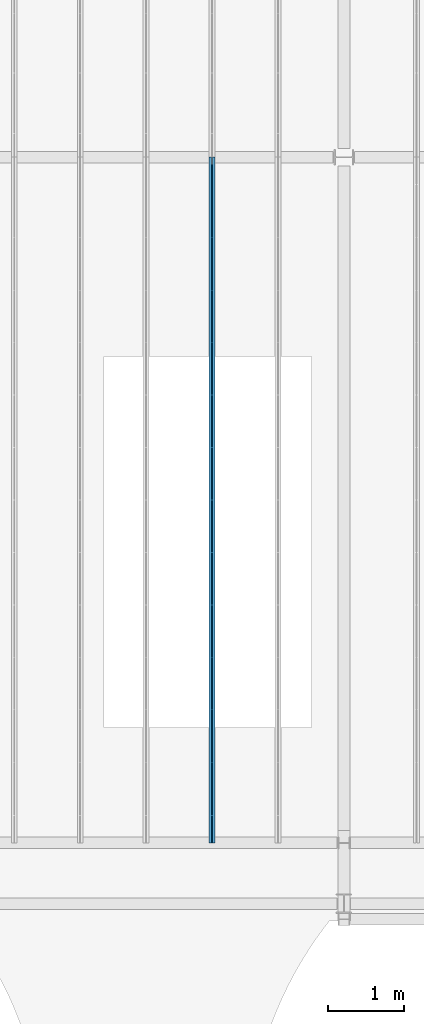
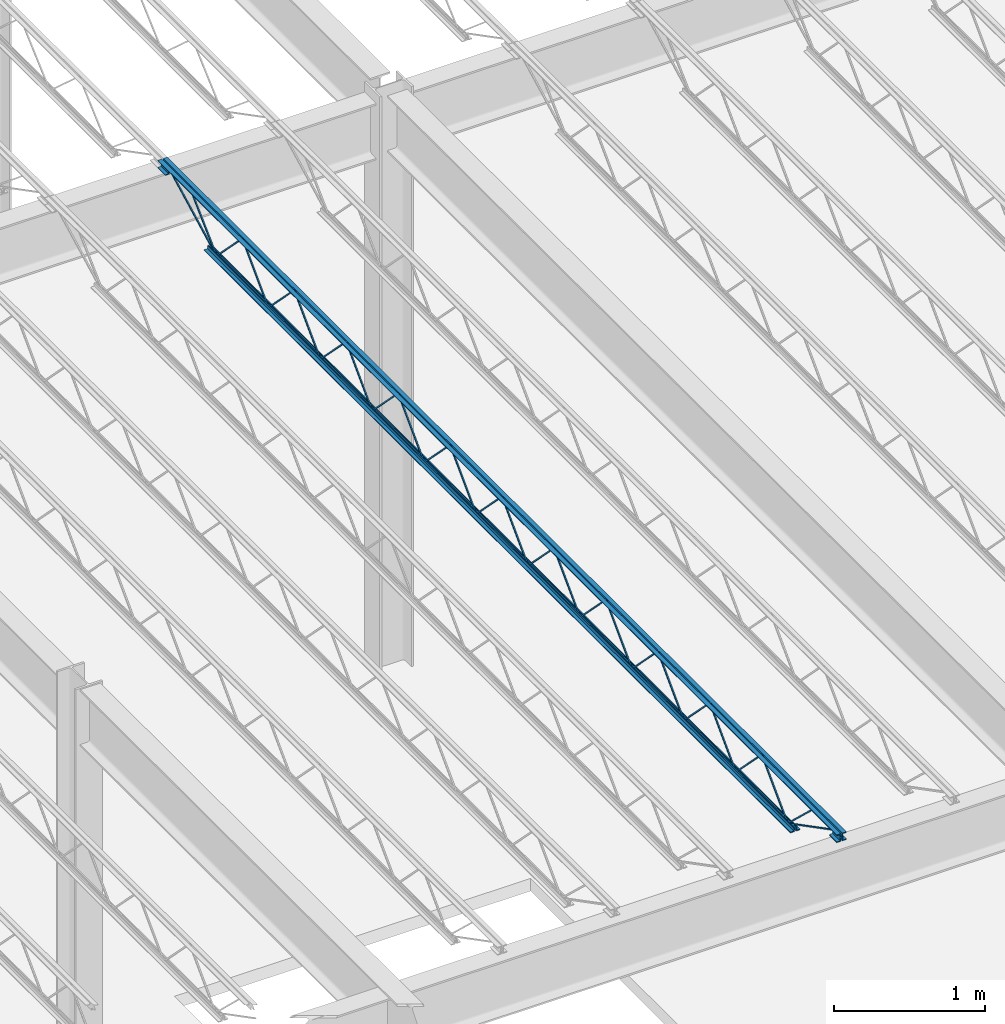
# One storey, part 55 of 119: 1 beam.
"""IFC2X3 building model written with IfcOpenShell, lengths in metres."""

from ifc_helpers import new_model, entity, si_unit, converted_unit, frame, origin, place, context, project, spatial, face_set, surface_model, element, save


model = new_model("IFC2X3")

# Units and contexts
model_context = context("Model", 3, precision=1e-09, world=origin())
plan_context = context("Plan", 3, precision=1e-09, world=origin())
ifc_project = project(units=[si_unit("LENGTHUNIT", "METRE"), si_unit("AREAUNIT", "SQUARE_METRE"), si_unit("VOLUMEUNIT", "CUBIC_METRE"), converted_unit("PLANEANGLEUNIT", "DEGREE", entity("IfcRatioMeasure", 0.01745329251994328), si_unit("PLANEANGLEUNIT", "RADIAN"), dimensions=[0, 0, 0, 0, 0, 0, 0]), si_unit("TIMEUNIT", "SECOND")], contexts=[model_context, plan_context])

# Site, building, storey
site_placement = place(None, origin())
site = spatial("IfcSite", under=ifc_project, at=site_placement, Name="Default", CompositionType="ELEMENT")
building_placement = place(site_placement, origin())
building = spatial("IfcBuilding", under=site, at=building_placement, CompositionType="ELEMENT")
storey_placement = place(building_placement, frame((0.0, 0.0, 4.570000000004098)))
storey = spatial("IfcBuildingStorey", under=building, at=storey_placement, Name="Second Floor", CompositionType="ELEMENT", Elevation=4.570000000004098)

# Beam
beam_placement = place(storey_placement, frame((-16.64339999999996, 35.80499999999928, 4.323999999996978)))
element("IfcBeam", 1, at=beam_placement, inside=storey, Name="M_K-Series Bar Joist-Rod Web:14K1:14K1", ObjectType="M_K-Series Bar Joist-Rod Web:14K1", context=model_context, shape_type="SurfaceModel", body=[
    surface_model("IfcFaceBasedSurfaceModel", [(0.04150000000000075, 6.89009090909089, 0.01110000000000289), (0.03200000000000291, 6.89009090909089, 0.01110000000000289), (0.03200000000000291, 6.89009090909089, 0.001600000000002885), (0.04150000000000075, 6.89009090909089, 0.001600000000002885), (0.03200000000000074, 6.891272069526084, 0.01110000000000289), (0.04150000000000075, 6.891272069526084, 0.01110000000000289), (0.03200000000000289, 6.895259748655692, 0.001600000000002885), (0.03200000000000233, 7.232137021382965, 0.3449000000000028), (0.03200000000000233, 7.23449934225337, 0.3449000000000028), (0.03200000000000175, 7.571376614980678, 0.001600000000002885), (0.03200000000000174, 7.576545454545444, 0.001600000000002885), (0.03200000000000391, 7.576545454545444, 0.01110000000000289), (0.03200000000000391, 7.575364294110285, 0.01110000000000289), (0.03200000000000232, 7.238487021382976, 0.3544000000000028), (0.03200000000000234, 7.228149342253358, 0.3544000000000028), (0.0415000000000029, 6.895259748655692, 0.001600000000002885), (0.04150000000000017, 7.232137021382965, 0.3449000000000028), (0.04150000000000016, 7.23449934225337, 0.3449000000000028), (0.04149999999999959, 7.571376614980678, 0.001600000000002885), (0.04149999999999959, 7.576545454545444, 0.001600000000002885), (0.04149999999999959, 7.576545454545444, 0.01110000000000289), (0.04149999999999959, 7.575364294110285, 0.01110000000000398), (0.04150000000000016, 7.238487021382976, 0.3544000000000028), (0.04150000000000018, 7.228149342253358, 0.3544000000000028), (0.04149999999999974, 6.203636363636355, 0.01110000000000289), (0.0320000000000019, 6.203636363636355, 0.01110000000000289), (0.0320000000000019, 6.203636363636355, 0.001600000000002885), (0.04149999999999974, 6.203636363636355, 0.001600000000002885), (0.03199999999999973, 6.204817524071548, 0.01110000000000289), (0.04149999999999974, 6.204817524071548, 0.01110000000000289), (0.0320000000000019, 6.208805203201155, 0.001600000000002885), (0.03200000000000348, 6.545682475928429, 0.3449000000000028), (0.03200000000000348, 6.548044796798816, 0.3449000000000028), (0.03200000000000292, 6.884922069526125, 0.001600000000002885), (0.03200000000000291, 6.888909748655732, 0.01110000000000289), (0.03200000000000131, 6.552032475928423, 0.3544000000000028), (0.03200000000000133, 6.541694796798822, 0.3544000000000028), (0.0415000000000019, 6.208805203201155, 0.001600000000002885), (0.04149999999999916, 6.545682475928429, 0.3449000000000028), (0.04149999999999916, 6.548044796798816, 0.3449000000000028), (0.04149999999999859, 6.884922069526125, 0.001600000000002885), (0.04149999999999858, 6.89009090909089, 0.001600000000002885), (0.04150000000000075, 6.888909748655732, 0.01110000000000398), (0.04150000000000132, 6.552032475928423, 0.3544000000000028), (0.04150000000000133, 6.541694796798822, 0.3544000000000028), (0.0415000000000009, 5.517181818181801, 0.01110000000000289), (0.03200000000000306, 5.517181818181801, 0.01110000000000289), (0.03200000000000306, 5.517181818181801, 0.001600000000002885), (0.0415000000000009, 5.517181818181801, 0.001600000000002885), (0.03200000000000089, 5.518362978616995, 0.01110000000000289), (0.0415000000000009, 5.518362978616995, 0.01110000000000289), (0.03200000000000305, 5.522350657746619, 0.001600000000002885), (0.03200000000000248, 5.859227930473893, 0.3449000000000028), (0.03200000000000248, 5.861590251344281, 0.3449000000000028), (0.03200000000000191, 6.198467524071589, 0.001600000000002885), (0.03200000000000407, 6.203636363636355, 0.01110000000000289), (0.03200000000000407, 6.202455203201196, 0.01110000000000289), (0.03200000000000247, 5.865577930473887, 0.3544000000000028), (0.03200000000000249, 5.855240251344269, 0.3544000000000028), (0.04150000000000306, 5.522350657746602, 0.001600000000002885), (0.04150000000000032, 5.859227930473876, 0.3449000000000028), (0.04150000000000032, 5.861590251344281, 0.3449000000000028), (0.04149999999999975, 6.198467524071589, 0.001600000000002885), (0.04149999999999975, 6.202455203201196, 0.01110000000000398), (0.04150000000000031, 5.865577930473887, 0.3544000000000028), (0.04150000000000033, 5.855240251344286, 0.3544000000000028), (0.04149999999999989, 4.830727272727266, 0.01110000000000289), (0.03200000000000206, 4.830727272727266, 0.01110000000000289), (0.03200000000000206, 4.830727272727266, 0.001600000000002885), (0.04149999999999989, 4.830727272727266, 0.001600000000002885), (0.03199999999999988, 4.831908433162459, 0.01110000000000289), (0.04149999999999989, 4.831908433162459, 0.01110000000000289), (0.03200000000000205, 4.835896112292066, 0.001600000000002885), (0.03200000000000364, 5.17277338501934, 0.3449000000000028), (0.03200000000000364, 5.175135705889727, 0.3449000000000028), (0.03200000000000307, 5.512012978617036, 0.001600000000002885), (0.03200000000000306, 5.517181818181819, 0.001600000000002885), (0.03200000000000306, 5.517181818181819, 0.01110000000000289), (0.03200000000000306, 5.51600065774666, 0.01110000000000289), (0.03200000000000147, 5.179123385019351, 0.3544000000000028), (0.03200000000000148, 5.168785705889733, 0.3544000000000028), (0.04150000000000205, 4.835896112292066, 0.001600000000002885), (0.04149999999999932, 5.17277338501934, 0.3449000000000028), (0.04149999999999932, 5.175135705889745, 0.3449000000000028), (0.04149999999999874, 5.512012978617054, 0.001600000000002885), (0.04149999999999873, 5.517181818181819, 0.001600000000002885), (0.0415000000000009, 5.517181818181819, 0.01110000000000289), (0.0415000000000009, 5.51600065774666, 0.01110000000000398), (0.04150000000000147, 5.179123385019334, 0.3544000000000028), (0.04150000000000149, 5.168785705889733, 0.3544000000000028), (0.04150000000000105, 4.14427272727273, 0.01110000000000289), (0.03200000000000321, 4.14427272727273, 0.01110000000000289), (0.03200000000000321, 4.14427272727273, 0.001600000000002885), (0.04150000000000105, 4.14427272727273, 0.001600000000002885), (0.03200000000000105, 4.145453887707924, 0.01110000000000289), (0.04150000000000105, 4.145453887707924, 0.01110000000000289), (0.03200000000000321, 4.14944156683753, 0.001600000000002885), (0.03200000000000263, 4.486318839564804, 0.3449000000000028), (0.03200000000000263, 4.488681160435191, 0.3449000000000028), (0.03200000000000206, 4.8255584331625, 0.001600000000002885), (0.03200000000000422, 4.830727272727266, 0.01110000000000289), (0.03200000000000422, 4.829546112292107, 0.01110000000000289), (0.03200000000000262, 4.492668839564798, 0.3544000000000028), (0.03200000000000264, 4.482331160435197, 0.3544000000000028), (0.04150000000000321, 4.14944156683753, 0.001600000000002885), (0.04150000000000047, 4.486318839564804, 0.3449000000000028), (0.04150000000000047, 4.488681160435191, 0.3449000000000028), (0.0414999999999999, 4.8255584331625, 0.001600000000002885), (0.0414999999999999, 4.829546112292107, 0.01110000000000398), (0.04150000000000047, 4.492668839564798, 0.3544000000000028), (0.04150000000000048, 4.482331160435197, 0.3544000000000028), (0.04150000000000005, 3.457818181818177, 0.01110000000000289), (0.03200000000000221, 3.457818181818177, 0.01110000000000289), (0.03200000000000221, 3.457818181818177, 0.001600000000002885), (0.04150000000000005, 3.457818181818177, 0.001600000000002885), (0.03200000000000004, 3.458999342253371, 0.01110000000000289), (0.04150000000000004, 3.458999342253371, 0.01110000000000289), (0.03200000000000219, 3.462987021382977, 0.001600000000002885), (0.03200000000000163, 3.799864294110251, 0.3449000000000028), (0.03200000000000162, 3.802226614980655, 0.3449000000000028), (0.03200000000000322, 4.139103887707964, 0.001600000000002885), (0.03200000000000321, 4.143091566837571, 0.01110000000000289), (0.03200000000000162, 3.806214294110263, 0.3544000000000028), (0.03200000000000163, 3.795876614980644, 0.3544000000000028), (0.04150000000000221, 3.462987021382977, 0.001600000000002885), (0.04149999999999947, 3.799864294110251, 0.3449000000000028), (0.04149999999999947, 3.802226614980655, 0.3449000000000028), (0.0414999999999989, 4.139103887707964, 0.001600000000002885), (0.04149999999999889, 4.14427272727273, 0.001600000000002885), (0.04150000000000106, 4.143091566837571, 0.01110000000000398), (0.04149999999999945, 3.806214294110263, 0.3544000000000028), (0.04149999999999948, 3.795876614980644, 0.3544000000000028), (0.04150000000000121, 2.771363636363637, 0.01110000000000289), (0.03200000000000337, 2.771363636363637, 0.01110000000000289), (0.03200000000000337, 2.771363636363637, 0.001600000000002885), (0.04150000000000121, 2.771363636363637, 0.001600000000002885), (0.0320000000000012, 2.772544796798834, 0.01110000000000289), (0.0415000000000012, 2.772544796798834, 0.01110000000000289), (0.03200000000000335, 2.776532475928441, 0.001600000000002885), (0.03200000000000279, 3.113409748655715, 0.3449000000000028), (0.03200000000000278, 3.115772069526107, 0.3449000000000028), (0.03200000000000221, 3.452649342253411, 0.001600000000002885), (0.03200000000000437, 3.457818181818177, 0.01110000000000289), (0.03200000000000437, 3.456637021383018, 0.01110000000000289), (0.03200000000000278, 3.119759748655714, 0.3544000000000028), (0.03200000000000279, 3.109422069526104, 0.3544000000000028), (0.04150000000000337, 2.776532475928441, 0.001600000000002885), (0.04150000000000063, 3.113409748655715, 0.3449000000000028), (0.04150000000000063, 3.115772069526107, 0.3449000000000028), (0.04150000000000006, 3.452649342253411, 0.001600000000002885), (0.04150000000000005, 3.456637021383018, 0.01110000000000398), (0.04150000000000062, 3.119759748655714, 0.3544000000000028), (0.04150000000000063, 3.109422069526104, 0.3544000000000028), (0.0415000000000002, 2.084909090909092, 0.01110000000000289), (0.03200000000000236, 2.084909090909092, 0.01110000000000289), (0.03200000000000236, 2.084909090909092, 0.001600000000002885), (0.0415000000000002, 2.084909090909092, 0.001600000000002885), (0.0320000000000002, 2.08609025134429, 0.01110000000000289), (0.0415000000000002, 2.08609025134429, 0.01110000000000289), (0.03200000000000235, 2.090077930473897, 0.001600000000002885), (0.03200000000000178, 2.426955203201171, 0.3449000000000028), (0.03200000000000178, 2.429317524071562, 0.3449000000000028), (0.03200000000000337, 2.766194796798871, 0.001600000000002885), (0.03200000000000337, 2.770182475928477, 0.01110000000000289), (0.03200000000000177, 2.433305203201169, 0.3544000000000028), (0.03200000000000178, 2.422967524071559, 0.3544000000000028), (0.04150000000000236, 2.090077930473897, 0.001600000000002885), (0.04149999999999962, 2.426955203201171, 0.3449000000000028), (0.04149999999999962, 2.429317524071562, 0.3449000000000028), (0.04149999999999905, 2.766194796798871, 0.001600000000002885), (0.04149999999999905, 2.771363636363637, 0.001600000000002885), (0.04150000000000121, 2.770182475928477, 0.01110000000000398), (0.04149999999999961, 2.433305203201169, 0.3544000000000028), (0.04149999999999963, 2.422967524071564, 0.3544000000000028), (0.04150000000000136, 1.398454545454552, 0.01110000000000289), (0.03200000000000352, 1.398454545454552, 0.01110000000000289), (0.03200000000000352, 1.398454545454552, 0.001600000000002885), (0.04150000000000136, 1.398454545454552, 0.001600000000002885), (0.03200000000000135, 1.39963570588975, 0.01110000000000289), (0.04150000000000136, 1.39963570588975, 0.01110000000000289), (0.03200000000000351, 1.403623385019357, 0.001600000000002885), (0.03200000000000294, 1.740500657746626, 0.3449000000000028), (0.03200000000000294, 1.742862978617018, 0.3449000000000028), (0.03200000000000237, 2.07974025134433, 0.001600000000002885), (0.03200000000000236, 2.084909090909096, 0.001600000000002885), (0.03200000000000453, 2.084909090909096, 0.01110000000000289), (0.03200000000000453, 2.083727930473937, 0.01110000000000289), (0.03200000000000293, 1.746850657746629, 0.3544000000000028), (0.03200000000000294, 1.736512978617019, 0.3544000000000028), (0.04150000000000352, 1.403623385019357, 0.001600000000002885), (0.04150000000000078, 1.74050065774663, 0.3449000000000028), (0.04150000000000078, 1.742862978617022, 0.3449000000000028), (0.04150000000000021, 2.07974025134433, 0.001600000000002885), (0.0415000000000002, 2.084909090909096, 0.001600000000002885), (0.0415000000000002, 2.084909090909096, 0.01110000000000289), (0.0415000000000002, 2.083727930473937, 0.01110000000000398), (0.04150000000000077, 1.746850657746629, 0.3544000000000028), (0.04150000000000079, 1.736512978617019, 0.3544000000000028), (0.04150000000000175, 7.576545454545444, 0.01109999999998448), (0.03200000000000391, 7.576545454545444, 0.01109999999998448), (0.03200000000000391, 7.576545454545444, 0.001599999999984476), (0.04150000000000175, 7.576545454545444, 0.001599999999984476), (0.03200000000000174, 7.577726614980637, 0.01109999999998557), (0.04150000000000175, 7.577726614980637, 0.01109999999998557), (0.03200000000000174, 7.581714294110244, 0.001599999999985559), (0.03200000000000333, 7.918591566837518, 0.3448999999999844), (0.03200000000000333, 7.920953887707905, 0.3448999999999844), (0.03200000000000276, 8.257831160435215, 0.001599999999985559), (0.03200000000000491, 8.26299999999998, 0.001599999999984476), (0.03200000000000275, 8.26299999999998, 0.01109999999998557), (0.03200000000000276, 8.261818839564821, 0.01109999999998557), (0.03200000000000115, 7.924941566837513, 0.3543999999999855), (0.03200000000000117, 7.914603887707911, 0.3543999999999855), (0.04150000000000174, 7.581714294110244, 0.001599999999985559), (0.04150000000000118, 7.918591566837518, 0.3448999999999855), (0.04150000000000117, 7.920953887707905, 0.3448999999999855), (0.0415000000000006, 8.257831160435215, 0.001599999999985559), (0.04150000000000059, 8.26299999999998, 0.001599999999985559), (0.04150000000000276, 8.26299999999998, 0.01109999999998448), (0.04150000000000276, 8.261818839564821, 0.01109999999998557), (0.04150000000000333, 7.924941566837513, 0.3543999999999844), (0.04150000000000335, 7.914603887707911, 0.3543999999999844), (0.04150000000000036, 0.7120000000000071, 0.01110000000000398), (0.03200000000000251, 0.7120000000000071, 0.01110000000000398), (0.03200000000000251, 0.7120000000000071, 0.001600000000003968), (0.04150000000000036, 0.7120000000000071, 0.001600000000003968), (0.03200000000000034, 0.7131811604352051, 0.01110000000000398), (0.04150000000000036, 0.7131811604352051, 0.01110000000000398), (0.03200000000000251, 0.7171688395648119, 0.001600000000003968), (0.03200000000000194, 1.054046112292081, 0.3449000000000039), (0.03200000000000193, 1.056408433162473, 0.3449000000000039), (0.03200000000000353, 1.393285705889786, 0.001600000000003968), (0.03200000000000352, 1.398454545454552, 0.001600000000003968), (0.03200000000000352, 1.398454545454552, 0.01110000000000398), (0.03200000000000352, 1.397273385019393, 0.01110000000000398), (0.03200000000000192, 1.060396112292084, 0.3544000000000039), (0.03200000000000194, 1.050058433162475, 0.3544000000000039), (0.04150000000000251, 0.7171688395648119, 0.001600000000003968), (0.04149999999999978, 1.054046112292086, 0.3449000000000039), (0.04149999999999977, 1.056408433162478, 0.3449000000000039), (0.0414999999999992, 1.393285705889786, 0.001600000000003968), (0.0414999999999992, 1.398454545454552, 0.001600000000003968), (0.04150000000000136, 1.398454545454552, 0.01110000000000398), (0.04150000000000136, 1.397273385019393, 0.01110000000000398), (0.04149999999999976, 1.060396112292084, 0.3544000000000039), (0.04149999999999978, 1.050058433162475, 0.3544000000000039), (0.03199999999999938, 8.975000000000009, 0.3559999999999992), (0.0, 8.975000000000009, 0.3559999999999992), (0.0, 8.975000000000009, 0.3494999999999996), (0.02549999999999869, 8.975000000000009, 0.3494999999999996), (0.02549999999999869, 8.975000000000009, 0.3239999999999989), (0.03199999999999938, 8.975000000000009, 0.3239999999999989), (0.04149999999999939, 8.975000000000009, 0.3559999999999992), (0.04149999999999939, 8.975000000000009, 0.3239999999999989), (0.04800000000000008, 8.975000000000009, 0.3239999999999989), (0.04800000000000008, 8.975000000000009, 0.3494999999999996), (0.07349999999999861, 8.975000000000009, 0.3494999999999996), (0.07349999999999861, 8.975000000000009, 0.3559999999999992), (0.03200000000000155, 0.0, 0.3559999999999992), (0.0, 0.0, 0.3559999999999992), (0.0, 0.0, 0.3494999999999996), (0.02550000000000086, 0.0, 0.3494999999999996), (0.02550000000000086, 0.0, 0.3239999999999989), (0.03200000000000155, 0.0, 0.3239999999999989), (0.04150000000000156, 0.0, 0.3559999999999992), (0.04150000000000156, 0.0, 0.3239999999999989), (0.04800000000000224, 0.0, 0.3239999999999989), (0.04800000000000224, 0.0, 0.3494999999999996), (0.07350000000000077, 0.0, 0.3494999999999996), (0.07350000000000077, 0.0, 0.3559999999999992), (0.04150000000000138, 0.09999999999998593, 0.2924999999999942), (0.0735000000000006, 0.09999999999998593, 0.2924999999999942), (0.0735000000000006, 0.09999999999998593, 0.2989999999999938), (0.04800000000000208, 0.09999999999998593, 0.2989999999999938), (0.04800000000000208, 0.09999999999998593, 0.3239999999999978), (0.04150000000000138, 0.09999999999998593, 0.3239999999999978), (0.0, 0.09999999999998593, 0.2924999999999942), (0.03200000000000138, 0.09999999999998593, 0.2924999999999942), (0.03200000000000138, 0.09999999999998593, 0.3239999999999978), (0.02550000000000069, 0.09999999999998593, 0.3239999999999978), (0.02550000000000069, 0.09999999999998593, 0.2989999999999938), (0.0, 0.09999999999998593, 0.2989999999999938), (0.04150000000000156, 0.0, 0.2924999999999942), (0.07350000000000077, 0.0, 0.2924999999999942), (0.07350000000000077, 0.0, 0.2989999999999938), (0.04800000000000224, 0.0, 0.2989999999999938), (0.04800000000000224, 0.0, 0.3239999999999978), (0.04150000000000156, 0.0, 0.3239999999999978), (0.0, 0.0, 0.2924999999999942), (0.03200000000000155, 0.0, 0.2924999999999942), (0.03200000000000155, 0.0, 0.3239999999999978), (0.02550000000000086, 0.0, 0.3239999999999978), (0.02550000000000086, 0.0, 0.2989999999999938), (0.0, 0.0, 0.2989999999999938), (0.03199999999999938, 8.975000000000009, 0.2924999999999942), (0.03199999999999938, 8.975000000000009, 0.3239999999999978), (0.02550000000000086, 8.975000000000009, 0.3239999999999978), (0.02550000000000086, 8.975000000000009, 0.2989999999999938), (0.0, 8.975000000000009, 0.2989999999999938), (0.0, 8.975000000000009, 0.2924999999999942), (0.04149999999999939, 8.975000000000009, 0.2924999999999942), (0.07350000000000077, 8.975000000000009, 0.2924999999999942), (0.07350000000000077, 8.975000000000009, 0.2989999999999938), (0.04800000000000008, 8.975000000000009, 0.2989999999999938), (0.04800000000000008, 8.975000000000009, 0.3239999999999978), (0.04149999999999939, 8.975000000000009, 0.3239999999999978), (0.03199999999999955, 8.874999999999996, 0.2924999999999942), (0.03199999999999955, 8.874999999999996, 0.3239999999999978), (0.02550000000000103, 8.874999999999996, 0.3239999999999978), (0.02550000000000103, 8.874999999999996, 0.2989999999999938), (0.0, 8.874999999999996, 0.2989999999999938), (0.0, 8.874999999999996, 0.2924999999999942), (0.04149999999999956, 8.874999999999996, 0.2924999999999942), (0.07350000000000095, 8.874999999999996, 0.2924999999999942), (0.07350000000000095, 8.874999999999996, 0.2989999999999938), (0.04800000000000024, 8.874999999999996, 0.2989999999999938), (0.04800000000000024, 8.874999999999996, 0.3239999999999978), (0.04149999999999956, 8.874999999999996, 0.3239999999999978), (0.03200000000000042, 8.363000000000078, 0.0), (0.03200000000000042, 8.363000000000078, 0.03199999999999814), (0.02549999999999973, 8.363000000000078, 0.03199999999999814), (0.02549999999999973, 8.363000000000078, 0.006499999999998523), (0.0, 8.363000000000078, 0.006499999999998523), (0.0, 8.363000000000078, 0.0), (0.04150000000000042, 8.363000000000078, 0.0), (0.07349999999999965, 8.363000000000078, 0.0), (0.07349999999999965, 8.363000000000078, 0.006499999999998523), (0.04800000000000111, 8.363000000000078, 0.006499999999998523), (0.04800000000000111, 8.363000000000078, 0.03199999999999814), (0.04150000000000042, 8.363000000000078, 0.03199999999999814), (0.03200000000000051, 0.6120000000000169, 0.0), (0.03200000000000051, 0.6120000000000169, 0.03199999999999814), (0.02549999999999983, 0.6120000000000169, 0.03199999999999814), (0.02549999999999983, 0.6120000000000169, 0.006499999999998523), (0.0, 0.6120000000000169, 0.006499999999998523), (0.0, 0.6120000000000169, 0.0), (0.04150000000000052, 0.6120000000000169, 0.0), (0.07349999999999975, 0.6120000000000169, 0.0), (0.07349999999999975, 0.6120000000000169, 0.006499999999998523), (0.04800000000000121, 0.6120000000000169, 0.006499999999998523), (0.04800000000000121, 0.6120000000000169, 0.03199999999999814), (0.04150000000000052, 0.6120000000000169, 0.03199999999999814), (0.04150000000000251, 0.7141882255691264, 0.01056594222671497), (0.03200000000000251, 0.7141882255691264, 0.01056594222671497), (0.03200000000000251, 0.7098117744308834, 0.002134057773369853), (0.04150000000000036, 0.7098117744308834, 0.002134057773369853), (0.04150000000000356, 0.1011592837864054, 0.3287499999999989), (0.04150000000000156, 0.0, 0.3287499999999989), (0.04150000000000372, 0.0, 0.3192499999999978), (0.04150000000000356, 0.09884071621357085, 0.3192499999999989), (0.03200000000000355, 0.09884071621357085, 0.3192499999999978), (0.03200000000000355, 0.1011592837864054, 0.3287499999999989), (0.03200000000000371, 0.0, 0.3287499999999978), (0.03200000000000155, 0.0, 0.3192499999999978), (0.04150000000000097, 0.3488155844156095, 0.3417000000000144), (0.03200000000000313, 0.3488155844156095, 0.3417000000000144), (0.03200000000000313, 0.3488155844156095, 0.3322000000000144), (0.04150000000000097, 0.3488155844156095, 0.3322000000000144), (0.03200000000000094, 0.3634023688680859, 0.3417000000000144), (0.04150000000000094, 0.3634023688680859, 0.3417000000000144), (0.03200000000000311, 0.3596287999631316, 0.3322000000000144), (0.03200000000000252, 0.7087406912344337, 0.002894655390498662), (0.03200000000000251, 0.7152593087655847, 0.009805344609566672), (0.04150000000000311, 0.3596287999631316, 0.3322000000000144), (0.04150000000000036, 0.7087406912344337, 0.002894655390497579), (0.04150000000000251, 0.7152593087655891, 0.009805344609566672), (0.04149999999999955, 8.877188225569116, 0.3197840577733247), (0.04149999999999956, 8.872811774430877, 0.3282159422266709), (0.03200000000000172, 8.872811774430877, 0.3282159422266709), (0.03200000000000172, 8.877188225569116, 0.3197840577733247), (0.04150000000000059, 8.265188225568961, 0.002134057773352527), (0.0415000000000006, 8.260811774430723, 0.01056594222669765), (0.03200000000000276, 8.260811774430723, 0.01056594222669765), (0.03200000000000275, 8.265188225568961, 0.002134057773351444), (0.04150000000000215, 8.624030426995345, 0.346222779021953), (0.04149999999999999, 8.617452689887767, 0.3530772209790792), (0.03199999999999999, 8.617452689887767, 0.3530772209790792), (0.03200000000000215, 8.624030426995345, 0.346222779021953), (0.04150000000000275, 8.266288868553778, 0.002922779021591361), (0.0415000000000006, 8.259711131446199, 0.009777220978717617), (0.03200000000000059, 8.259711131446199, 0.009777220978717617), (0.03200000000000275, 8.266288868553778, 0.002922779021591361)], [face_set([[[0, 1, 2, 3]], [[1, 4, 5, 0]], [[2, 6, 7, 8, 9, 10, 11, 12, 13, 14, 4, 1]], [[3, 2, 6, 15]], [[0, 3, 15, 16, 17, 18, 19, 20, 21, 22, 23, 5]], [[4, 5, 23, 14]], [[15, 16, 7, 6]], [[14, 13, 22, 23]], [[16, 7, 8, 17]], [[13, 12, 21, 22]], [[17, 8, 9, 18]], [[20, 11, 10, 19]], [[12, 11, 20, 21]], [[18, 9, 10, 19]]]), face_set([[[24, 25, 26, 27]], [[25, 28, 29, 24]], [[26, 30, 31, 32, 33, 2, 1, 34, 35, 36, 28, 25]], [[27, 26, 30, 37]], [[24, 27, 37, 38, 39, 40, 41, 0, 42, 43, 44, 29]], [[28, 29, 44, 36]], [[37, 38, 31, 30]], [[36, 35, 43, 44]], [[38, 31, 32, 39]], [[35, 34, 42, 43]], [[39, 32, 33, 40]], [[0, 1, 2, 41]], [[34, 1, 0, 42]], [[40, 33, 2, 41]]]), face_set([[[45, 46, 47, 48]], [[46, 49, 50, 45]], [[47, 51, 52, 53, 54, 26, 55, 56, 57, 58, 49, 46]], [[48, 47, 51, 59]], [[45, 48, 59, 60, 61, 62, 27, 24, 63, 64, 65, 50]], [[49, 50, 65, 58]], [[59, 60, 52, 51]], [[58, 57, 64, 65]], [[60, 52, 53, 61]], [[57, 56, 63, 64]], [[61, 53, 54, 62]], [[24, 55, 26, 27]], [[56, 55, 24, 63]], [[62, 54, 26, 27]]]), face_set([[[66, 67, 68, 69]], [[67, 70, 71, 66]], [[68, 72, 73, 74, 75, 76, 77, 78, 79, 80, 70, 67]], [[69, 68, 72, 81]], [[66, 69, 81, 82, 83, 84, 85, 86, 87, 88, 89, 71]], [[70, 71, 89, 80]], [[81, 82, 73, 72]], [[80, 79, 88, 89]], [[82, 73, 74, 83]], [[79, 78, 87, 88]], [[83, 74, 75, 84]], [[86, 77, 76, 85]], [[78, 77, 86, 87]], [[84, 75, 76, 85]]]), face_set([[[90, 91, 92, 93]], [[91, 94, 95, 90]], [[92, 96, 97, 98, 99, 68, 100, 101, 102, 103, 94, 91]], [[93, 92, 96, 104]], [[90, 93, 104, 105, 106, 107, 69, 66, 108, 109, 110, 95]], [[94, 95, 110, 103]], [[104, 105, 97, 96]], [[103, 102, 109, 110]], [[105, 97, 98, 106]], [[102, 101, 108, 109]], [[106, 98, 99, 107]], [[66, 100, 68, 69]], [[101, 100, 66, 108]], [[107, 99, 68, 69]]]), face_set([[[111, 112, 113, 114]], [[112, 115, 116, 111]], [[113, 117, 118, 119, 120, 92, 91, 121, 122, 123, 115, 112]], [[114, 113, 117, 124]], [[111, 114, 124, 125, 126, 127, 128, 90, 129, 130, 131, 116]], [[115, 116, 131, 123]], [[124, 125, 118, 117]], [[123, 122, 130, 131]], [[125, 118, 119, 126]], [[122, 121, 129, 130]], [[126, 119, 120, 127]], [[90, 91, 92, 128]], [[121, 91, 90, 129]], [[127, 120, 92, 128]]]), face_set([[[132, 133, 134, 135]], [[133, 136, 137, 132]], [[134, 138, 139, 140, 141, 113, 142, 143, 144, 145, 136, 133]], [[135, 134, 138, 146]], [[132, 135, 146, 147, 148, 149, 114, 111, 150, 151, 152, 137]], [[136, 137, 152, 145]], [[146, 147, 139, 138]], [[145, 144, 151, 152]], [[147, 139, 140, 148]], [[144, 143, 150, 151]], [[148, 140, 141, 149]], [[111, 142, 113, 114]], [[143, 142, 111, 150]], [[149, 141, 113, 114]]]), face_set([[[153, 154, 155, 156]], [[154, 157, 158, 153]], [[155, 159, 160, 161, 162, 134, 133, 163, 164, 165, 157, 154]], [[156, 155, 159, 166]], [[153, 156, 166, 167, 168, 169, 170, 132, 171, 172, 173, 158]], [[157, 158, 173, 165]], [[166, 167, 160, 159]], [[165, 164, 172, 173]], [[167, 160, 161, 168]], [[164, 163, 171, 172]], [[168, 161, 162, 169]], [[132, 133, 134, 170]], [[163, 133, 132, 171]], [[169, 162, 134, 170]]]), face_set([[[174, 175, 176, 177]], [[175, 178, 179, 174]], [[176, 180, 181, 182, 183, 184, 185, 186, 187, 188, 178, 175]], [[177, 176, 180, 189]], [[174, 177, 189, 190, 191, 192, 193, 194, 195, 196, 197, 179]], [[178, 179, 197, 188]], [[189, 190, 181, 180]], [[188, 187, 196, 197]], [[190, 181, 182, 191]], [[187, 186, 195, 196]], [[191, 182, 183, 192]], [[194, 185, 184, 193]], [[186, 185, 194, 195]], [[192, 183, 184, 193]]]), face_set([[[198, 199, 200, 201]], [[199, 202, 203, 198]], [[200, 204, 205, 206, 207, 208, 209, 210, 211, 212, 202, 199]], [[201, 200, 204, 213]], [[198, 201, 213, 214, 215, 216, 217, 218, 219, 220, 221, 203]], [[202, 203, 221, 212]], [[213, 214, 205, 204]], [[212, 211, 220, 221]], [[214, 205, 206, 215]], [[211, 210, 219, 220]], [[215, 206, 207, 216]], [[218, 209, 208, 217]], [[210, 209, 218, 219]], [[216, 207, 208, 217]]]), face_set([[[222, 223, 224, 225]], [[223, 226, 227, 222]], [[224, 228, 229, 230, 231, 232, 233, 234, 235, 236, 226, 223]], [[225, 224, 228, 237]], [[222, 225, 237, 238, 239, 240, 241, 242, 243, 244, 245, 227]], [[226, 227, 245, 236]], [[237, 238, 229, 228]], [[236, 235, 244, 245]], [[238, 229, 230, 239]], [[235, 234, 243, 244]], [[239, 230, 231, 240]], [[242, 233, 232, 241]], [[234, 233, 242, 243]], [[240, 231, 232, 241]]]), face_set([[[246, 247, 248, 249, 250, 251]], [[252, 253, 254, 255, 256, 257]], [[258, 259, 260, 261, 262, 263]], [[264, 265, 266, 267, 268, 269]], [[251, 246, 258, 263]], [[250, 251, 263, 262]], [[249, 261, 262, 250]], [[248, 249, 261, 260]], [[247, 259, 260, 248]], [[246, 258, 259, 247]], [[257, 269, 264, 252]], [[256, 257, 269, 268]], [[255, 256, 268, 267]], [[254, 255, 267, 266]], [[253, 254, 266, 265]], [[252, 264, 265, 253]]]), face_set([[[270, 271, 272, 273, 274, 275]], [[276, 277, 278, 279, 280, 281]], [[282, 283, 284, 285, 286, 287]], [[288, 289, 290, 291, 292, 293]], [[275, 287, 282, 270]], [[274, 286, 287, 275]], [[273, 274, 286, 285]], [[272, 284, 285, 273]], [[271, 272, 284, 283]], [[270, 271, 283, 282]], [[281, 293, 288, 276]], [[280, 292, 293, 281]], [[279, 291, 292, 280]], [[278, 290, 291, 279]], [[277, 278, 290, 289]], [[276, 277, 289, 288]]]), face_set([[[294, 295, 296, 297, 298, 299]], [[300, 301, 302, 303, 304, 305]], [[306, 307, 308, 309, 310, 311]], [[312, 313, 314, 315, 316, 317]], [[299, 294, 306, 311]], [[298, 310, 311, 299]], [[297, 309, 310, 298]], [[296, 308, 309, 297]], [[295, 307, 308, 296]], [[294, 295, 307, 306]], [[305, 317, 312, 300]], [[304, 316, 317, 305]], [[303, 304, 316, 315]], [[302, 314, 315, 303]], [[301, 302, 314, 313]], [[300, 301, 313, 312]]]), face_set([[[318, 319, 320, 321, 322, 323]], [[324, 325, 326, 327, 328, 329]], [[330, 331, 332, 333, 334, 335]], [[336, 337, 338, 339, 340, 341]], [[323, 318, 330, 335]], [[322, 334, 335, 323]], [[321, 333, 334, 322]], [[320, 332, 333, 321]], [[319, 331, 332, 320]], [[318, 319, 331, 330]], [[329, 341, 336, 324]], [[328, 340, 341, 329]], [[327, 328, 340, 339]], [[326, 338, 339, 327]], [[325, 326, 338, 337]], [[324, 325, 337, 336]]]), face_set([[[342, 343, 344, 345]], [[345, 342, 346, 347, 348, 349]], [[344, 345, 349, 350]], [[343, 351, 352, 353, 350, 344]], [[342, 346, 351, 343]], [[347, 352, 353, 348]], [[350, 349, 348, 353]], [[346, 347, 352, 351]]]), face_set([[[354, 355, 356, 357]], [[355, 358, 359, 354]], [[356, 360, 361, 362, 358, 355]], [[357, 356, 360, 363]], [[354, 357, 363, 364, 365, 359]], [[365, 362, 361, 364]], [[358, 362, 365, 359]], [[363, 360, 361, 364]]]), face_set([[[366, 367, 368, 369]], [[370, 371, 372, 373]], [[369, 373, 370, 366]], [[368, 372, 373, 369]], [[367, 368, 372, 371]], [[366, 367, 371, 370]]]), face_set([[[374, 375, 376, 377]], [[378, 379, 380, 381]], [[377, 381, 378, 374]], [[376, 380, 381, 377]], [[375, 376, 380, 379]], [[374, 375, 379, 378]]])]),
])

save(model, "model.ifc")
